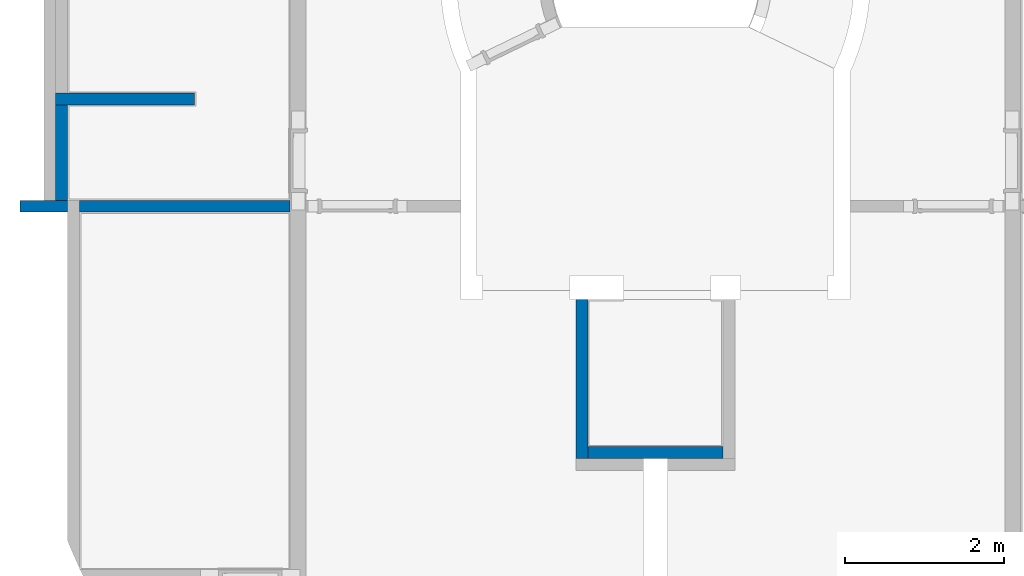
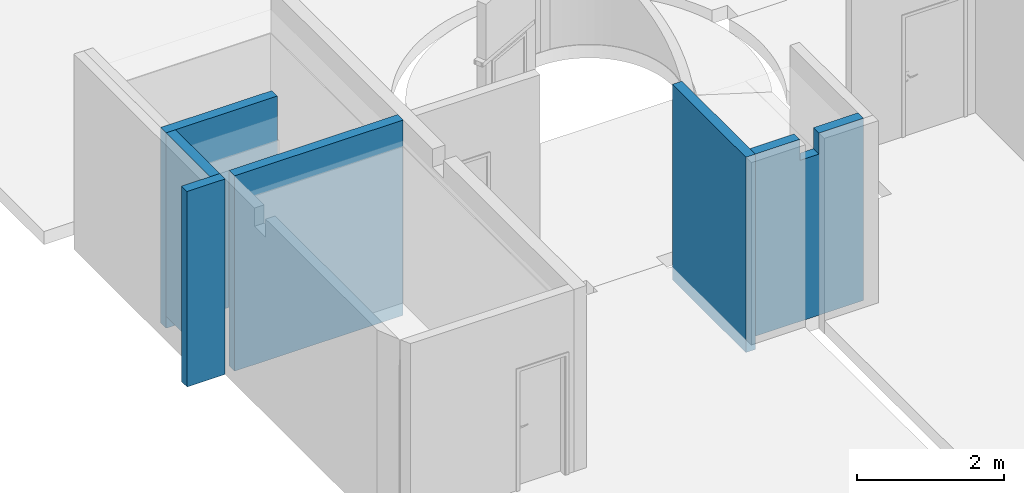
# One storey, part 11 of 21: 6 walls.
"""IFC4 building model written with IfcOpenShell, lengths in millimetres."""

from ifc_helpers import new_model, entity, si_unit, converted_unit, derived_unit, direction, frame, origin_with_axes, place, context, subcontext, project, spatial, polygons, material, constituent, constituent_set, type_object, element, save


model = new_model("IFC4")

# Units and contexts
model_context = context("Model", 3, precision=0.01, world=origin_with_axes(), true_north=direction((0.0, 1.0)))
body_context = subcontext(model_context, "Body", "Model", "MODEL_VIEW")
ifc_project = project(units=[si_unit("LENGTHUNIT", "METRE", prefix="MILLI"), si_unit("AREAUNIT", "SQUARE_METRE"), si_unit("VOLUMEUNIT", "CUBIC_METRE"), converted_unit("PLANEANGLEUNIT", "DEGREE", entity("IfcPlaneAngleMeasure", 0.0174532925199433), si_unit("PLANEANGLEUNIT", "RADIAN"), dimensions=[0, 0, 0, 0, 0, 0, 0]), converted_unit("TIMEUNIT", "Year", entity("IfcTimeMeasure", 31557600.0), si_unit("TIMEUNIT", "SECOND"), dimensions=[0, 0, 1, 0, 0, 0, 0]), si_unit("MASSUNIT", "GRAM", prefix="KILO"), si_unit("THERMODYNAMICTEMPERATUREUNIT", "DEGREE_CELSIUS"), si_unit("LUMINOUSINTENSITYUNIT", "LUMEN"), si_unit("ENERGYUNIT", "JOULE", prefix="MEGA"), derived_unit("THERMALCONDUCTANCEUNIT", [(si_unit("POWERUNIT", "WATT"), 1), (si_unit("LENGTHUNIT", "METRE"), -1), (si_unit("THERMODYNAMICTEMPERATUREUNIT", "KELVIN"), -1)]), derived_unit("SPECIFICHEATCAPACITYUNIT", [(si_unit("ENERGYUNIT", "JOULE"), 1), (si_unit("MASSUNIT", "GRAM", prefix="KILO"), -1), (si_unit("THERMODYNAMICTEMPERATUREUNIT", "KELVIN"), -1)]), derived_unit("MASSDENSITYUNIT", [(si_unit("MASSUNIT", "GRAM", prefix="KILO"), 1), (si_unit("VOLUMEUNIT", "CUBIC_METRE"), -1)])], contexts=[model_context])

# Site, building, storey
site_placement = place(None, origin_with_axes())
site = spatial("IfcSite", under=ifc_project, at=site_placement, Name="Exteriér", CompositionType="ELEMENT")
building_placement = place(site_placement, origin_with_axes())
building = spatial("IfcBuilding", under=site, at=building_placement, Name="Univerzitní lezecké centrum", CompositionType="ELEMENT")
storey_placement = place(building_placement, frame((0.0, 0.0, -3350.0), z_axis=(0.0, 0.0, 1.0), x_axis=(1.0, 0.0, 0.0)))
storey = spatial("IfcBuildingStorey", under=building, at=storey_placement, Name="1.PP", CompositionType="ELEMENT", Elevation=-3350.0)

# Walls
ifc_material_1 = material(Name="Keramické tvárnice nenosné tl. 150 mm")
ifc_constituent_1 = constituent(ifc_material_1, Name="Keramické tvárnice nenosné tl. 150 mm")
ifc_constituent_set_1 = constituent_set(constituents=[ifc_constituent_1], Name="!Vnitřní keramická stěna 150 mm - nenosná**")
wall_type_1 = type_object("IfcWallType", Name="!Vnitřní keramická stěna 150 mm - nenosná** 150", PredefinedType="NOTDEFINED")
wall_1_placement = place(storey_placement, frame((-5100.14835114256, 2300.255037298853, -220.0000000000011), z_axis=(0.0, 0.0, 1.0), x_axis=(0.9999999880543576, -0.0001545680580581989, 0.0)))
element("IfcWall", 1, at=wall_1_placement, inside=storey, type_object=wall_type_1, material=ifc_constituent_set_1, Name="St07**", PredefinedType="NOTDEFINED", context=body_context, shape_type="Tessellation", body=[
    polygons([(0.0, 0.0, 0.0), (0.0, 0.0, 120.0000000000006), (0.0, 0.0, 3250.0), (1750.0, 0.0, 3250.0), (1750.0, 0.0, 0.0), (0.0, -150.0000000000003, 0.0), (0.0, -150.0000000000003, 120.0000000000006), (0.02318520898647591, -149.9999999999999, 120.0000000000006), (0.02318520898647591, -149.9999999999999, 3250.0), (1750.000000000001, -150.0000000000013, 3250.0), (1750.000000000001, -150.0000000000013, 0.0)], [[[1, 2, 3, 4, 5]], [[6, 7, 2, 1]], [[8, 9, 3, 2]], [[4, 3, 9, 10]], [[10, 11, 5, 4]], [[11, 6, 1, 5]], [[9, 8, 7, 6, 11, 10]], [[8, 2, 7]]], closed=True),
])
ifc_constituent_2 = constituent(ifc_material_1, Name="Keramické tvárnice nenosné tl. 150 mm")
ifc_constituent_set_2 = constituent_set(constituents=[ifc_constituent_2], Name="!Vnitřní keramická stěna 150 mm - nenosná**")
wall_2_placement = place(storey_placement, frame((-4950.148351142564, 950.0000000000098, -220.0000000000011), z_axis=(0.0, 0.0, 1.0), x_axis=(1.0, 0.0, 0.0)))
element("IfcWall", 2, at=wall_2_placement, inside=storey, type_object=wall_type_1, material=ifc_constituent_set_2, Name="St07**", PredefinedType="NOTDEFINED", context=body_context, shape_type="Tessellation", body=[
    polygons([(2799.739482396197, 0.0, 0.0), (2799.739482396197, -149.9999999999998, 0.0), (150.0000000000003, -150.0, 0.0), (150.0000000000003, 0.0, 0.0), (2799.739482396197, 0.0, 3250.0), (2799.739482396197, -149.9999999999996, 3250.0), (150.0000000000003, -149.9999999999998, 3250.0), (150.0000000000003, 0.0, 3250.0)], [[[1, 2, 3, 4]], [[2, 1, 5, 6]], [[2, 6, 7, 3]], [[8, 4, 3, 7]], [[5, 1, 4, 8]], [[6, 5, 8, 7]]], closed=True),
])
ifc_material_2 = material(Name="Keramická dlažba 20x40 - obklad")
ifc_constituent_3 = constituent(ifc_material_2, Name="Keramická dlažba 20x40 - obklad")
ifc_material_3 = material(Name="Lepicí tmel na dlažbu a obklady")
ifc_constituent_4 = constituent(ifc_material_3, Name="Lepicí tmel na dlažbu a obklady")
ifc_material_4 = material(Name="Sádrokarton - voděodolný")
ifc_constituent_5 = constituent(ifc_material_4, Name="Sádrokarton - voděodolný 1")
ifc_constituent_6 = constituent(ifc_material_4, Name="Sádrokarton - voděodolný 2")
ifc_material_5 = material(Name="SDK nosný rám")
ifc_constituent_7 = constituent(ifc_material_5, Name="SDK nosný rám")
ifc_constituent_set_3 = constituent_set(constituents=[ifc_constituent_3, ifc_constituent_4, ifc_constituent_5, ifc_constituent_6, ifc_constituent_7], Name="SDK - instalační předstěna")
wall_type_2 = type_object("IfcWallType", Name="SDK - instalační předstěna 150", PredefinedType="NOTDEFINED")
wall_3_placement = place(storey_placement, frame((-5100.14835114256, 2300.255037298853, -100.000000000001), z_axis=(0.0, 0.0, 1.0), x_axis=(0.0, -1.0, 0.0)))
element("IfcWall", 3, at=wall_3_placement, inside=storey, type_object=wall_type_2, material=ifc_constituent_set_3, Name="St08", PredefinedType="NOTDEFINED", context=body_context, shape_type="Tessellation", body=[
    polygons([(1350.255037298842, 149.9999999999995, 100.0000000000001), (150.0231870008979, 150.0000000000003, 100.0000000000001), (150.0231870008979, 150.0000000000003, 3130.0), (1350.255037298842, 150.0000000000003, 3130.0), (150.0221050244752, 142.9999999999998, 100.0000000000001), (1350.255037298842, 142.9999999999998, 100.0000000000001), (150.0221050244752, 142.9999999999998, 3130.0), (1350.255037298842, 142.9999999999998, 3130.0)], [[[1, 2, 3, 4]], [[5, 2, 1, 6]], [[2, 5, 7, 3]], [[4, 3, 7, 8]], [[6, 1, 4, 8]], [[5, 6, 8, 7]]], closed=True),
    polygons([(1350.255037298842, 142.9999999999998, 90.0000000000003), (150.0221050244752, 142.9999999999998, 90.0000000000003), (150.0221050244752, 142.9999999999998, 3130.0), (1350.255037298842, 142.9999999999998, 3130.0), (150.0216413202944, 139.9999999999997, 90.0000000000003), (1350.255037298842, 139.9999999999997, 90.0000000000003), (150.0216413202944, 140.0000000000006, 3130.0), (1350.255037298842, 139.9999999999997, 3130.0)], [[[1, 2, 3, 4]], [[5, 2, 1, 6]], [[2, 5, 7, 3]], [[4, 3, 7, 8]], [[6, 1, 4, 8]], [[5, 6, 8, 7]]], closed=True),
    polygons([(1350.255037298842, 139.9999999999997, 87.00000000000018), (150.0216413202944, 139.9999999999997, 87.00000000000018), (150.0216413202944, 140.0000000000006, 3130.0), (1350.255037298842, 139.9999999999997, 3130.0), (150.01963193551, 126.9999999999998, 87.00000000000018), (1350.255037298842, 126.9999999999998, 87.00000000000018), (150.01963193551, 126.9999999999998, 3130.0), (1350.255037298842, 126.9999999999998, 3130.0)], [[[1, 2, 3, 4]], [[5, 2, 1, 6]], [[2, 5, 7, 3]], [[4, 3, 7, 8]], [[6, 1, 4, 8]], [[5, 6, 8, 7]]], closed=True),
    polygons([(1350.255037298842, 126.9999999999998, 87.00000000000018), (150.01963193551, 126.9999999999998, 87.00000000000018), (150.01963193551, 126.9999999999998, 3130.0), (1350.255037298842, 126.9999999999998, 3130.0), (150.0177771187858, 115.0000000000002, 87.00000000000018), (1350.255037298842, 115.0000000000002, 87.00000000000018), (150.0177771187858, 115.0000000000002, 3130.0), (1350.255037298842, 115.0000000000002, 3130.0)], [[[1, 2, 3, 4]], [[5, 2, 1, 6]], [[2, 5, 7, 3]], [[4, 3, 7, 8]], [[6, 1, 4, 8]], [[5, 6, 8, 7]]], closed=True),
    polygons([(1350.255037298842, 115.0000000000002, 80.99999999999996), (150.0177771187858, 115.0000000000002, 80.99999999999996), (150.0177771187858, 115.0000000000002, 3130.0), (1350.255037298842, 115.0000000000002, 3130.0), (150.0000017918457, 0.0, 80.99999999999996), (1350.255037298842, 0.0, 80.99999999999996), (150.0000017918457, 0.0, 3130.0), (1350.255037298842, 0.0, 3130.0)], [[[1, 2, 3, 4]], [[5, 2, 1, 6]], [[2, 5, 7, 3]], [[4, 3, 7, 8]], [[6, 1, 4, 8]], [[5, 6, 8, 7]]], closed=True),
])
wall_type_3 = type_object("IfcWallType", Name="Keramické tvárnice nenosné tl. 150 mm 150", PredefinedType="NOTDEFINED")
wall_4_placement = place(storey_placement, frame((-5550.148351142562, 950.0000000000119, -220.0000000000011), z_axis=(0.0, 0.0, 1.0), x_axis=(1.0, 0.0, 0.0)))
element("IfcWall", 4, at=wall_4_placement, inside=storey, type_object=wall_type_3, material=ifc_material_1, PredefinedType="NOTDEFINED", context=body_context, shape_type="Tessellation", body=[
    polygons([(0.0, -149.9999999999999, 3250.0), (599.9999999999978, -149.9999999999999, 3250.0), (599.9999999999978, 0.0, 3250.0), (0.0, 0.0, 3250.0), (0.0, -149.9999999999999, 0.0), (599.9999999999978, -150.0000000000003, 0.0), (599.9999999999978, 0.0, 0.0), (0.0, 0.0, 0.0)], [[[1, 2, 3, 4]], [[5, 6, 2, 1]], [[6, 7, 3, 2]], [[4, 3, 7, 8]], [[4, 8, 5, 1]], [[8, 7, 6, 5]]], closed=True),
])
ifc_constituent_8 = constituent(ifc_material_5, Name="SDK nosný rám")
ifc_constituent_9 = constituent(ifc_material_4, Name="Sádrokarton - voděodolný 1")
ifc_constituent_10 = constituent(ifc_material_4, Name="Sádrokarton - voděodolný 2")
ifc_constituent_11 = constituent(ifc_material_3, Name="Lepicí tmel na dlažbu a obklady")
ifc_constituent_12 = constituent(ifc_material_2, Name="Keramická dlažba 20x40 - obklad")
ifc_constituent_set_4 = constituent_set(constituents=[ifc_constituent_8, ifc_constituent_9, ifc_constituent_10, ifc_constituent_11, ifc_constituent_12], Name="SDK - instalační předstěna*")
wall_type_4 = type_object("IfcWallType", Name="SDK - instalační předstěna* 150", PredefinedType="NOTDEFINED")
wall_5_placement = place(storey_placement, frame((3299.851648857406, -2299.739482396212, -120.000000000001), z_axis=(0.0, 0.0, 1.0), x_axis=(-1.0, 0.0, 0.0)))
element("IfcWall", 5, at=wall_5_placement, inside=storey, type_object=wall_type_4, material=ifc_constituent_set_4, Name="St08*", PredefinedType="NOTDEFINED", context=body_context, shape_type="Tessellation", body=[
    polygons([(999.9999999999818, -115.0000000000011, 2800.000000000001), (699.9999999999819, -115.0000000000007, 2800.000000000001), (699.9999999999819, -115.0000000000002, 3150.000000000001), (0.0, -114.9999999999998, 3150.000000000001), (0.0, -115.0000000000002, 120.0000000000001), (1699.999999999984, -115.000000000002, 120.0000000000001), (1699.999999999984, -115.0000000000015, 3150.000000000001), (999.9999999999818, -115.0000000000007, 3150.000000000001), (999.9999999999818, 0.0, 2800.000000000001), (699.9999999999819, 0.0, 2800.000000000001), (699.9999999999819, 0.0, 3150.000000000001), (0.0, 0.0, 3150.000000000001), (0.0, 0.0, 120.0000000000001), (1699.999999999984, 0.0, 120.0000000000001), (1699.999999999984, 0.0, 3150.000000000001), (999.9999999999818, 0.0, 3150.000000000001)], [[[1, 2, 3, 4, 5, 6, 7, 8]], [[2, 1, 9, 10]], [[11, 3, 2, 10]], [[3, 11, 12, 4]], [[12, 13, 5, 4]], [[14, 6, 5, 13]], [[7, 6, 14, 15]], [[16, 8, 7, 15]], [[1, 8, 16, 9]], [[9, 16, 15, 14, 13, 12, 11, 10]]], closed=True),
    polygons([(999.9999999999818, -127.0000000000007, 2800.000000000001), (699.9999999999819, -127.0000000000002, 2800.000000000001), (699.9999999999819, -127.0000000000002, 3150.000000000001), (0.0, -126.9999999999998, 3150.000000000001), (0.0, -126.9999999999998, 120.0000000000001), (1699.999999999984, -127.000000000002, 120.0000000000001), (1699.999999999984, -127.0000000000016, 3150.000000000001), (999.9999999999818, -127.0000000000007, 3150.000000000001), (999.9999999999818, -115.0000000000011, 2800.000000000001), (699.9999999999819, -115.0000000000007, 2800.000000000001), (699.9999999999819, -115.0000000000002, 3150.000000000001), (0.0, -114.9999999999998, 3150.000000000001), (0.0, -115.0000000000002, 120.0000000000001), (1699.999999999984, -115.000000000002, 120.0000000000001), (1699.999999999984, -115.0000000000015, 3150.000000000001), (999.9999999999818, -115.0000000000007, 3150.000000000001)], [[[1, 2, 3, 4, 5, 6, 7, 8]], [[2, 1, 9, 10]], [[11, 3, 2, 10]], [[3, 11, 12, 4]], [[12, 13, 5, 4]], [[14, 6, 5, 13]], [[7, 6, 14, 15]], [[16, 8, 7, 15]], [[1, 8, 16, 9]], [[9, 16, 15, 14, 13, 12, 11, 10]]], closed=True),
    polygons([(999.9999999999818, -140.0000000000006, 2800.000000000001), (699.9999999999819, -140.0000000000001, 2800.000000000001), (699.9999999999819, -140.0000000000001, 3150.000000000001), (0.0, -139.9999999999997, 3150.000000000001), (0.0, -140.0000000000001, 120.0000000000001), (1699.999999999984, -140.0000000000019, 120.0000000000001), (1699.999999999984, -140.0000000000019, 3150.000000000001), (999.9999999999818, -140.0000000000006, 3150.000000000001), (999.9999999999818, -127.0000000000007, 2800.000000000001), (699.9999999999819, -127.0000000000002, 2800.000000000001), (699.9999999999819, -127.0000000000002, 3150.000000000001), (0.0, -126.9999999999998, 3150.000000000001), (0.0, -126.9999999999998, 120.0000000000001), (1699.999999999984, -127.000000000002, 120.0000000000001), (1699.999999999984, -127.0000000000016, 3150.000000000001), (999.9999999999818, -127.0000000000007, 3150.000000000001)], [[[1, 2, 3, 4, 5, 6, 7, 8]], [[2, 1, 9, 10]], [[11, 3, 2, 10]], [[3, 11, 12, 4]], [[12, 13, 5, 4]], [[14, 6, 5, 13]], [[7, 6, 14, 15]], [[16, 8, 7, 15]], [[1, 8, 16, 9]], [[9, 16, 15, 14, 13, 12, 11, 10]]], closed=True),
    polygons([(999.9999999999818, -143.0000000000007, 2800.000000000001), (699.9999999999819, -143.0000000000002, 2800.000000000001), (699.9999999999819, -143.0000000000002, 3150.000000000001), (0.0, -142.9999999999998, 3150.000000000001), (0.0, -142.9999999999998, 120.0000000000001), (1699.999999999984, -143.000000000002, 120.0000000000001), (1699.999999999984, -143.0000000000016, 3150.000000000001), (999.9999999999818, -143.0000000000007, 3150.000000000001), (999.9999999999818, -140.0000000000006, 2800.000000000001), (699.9999999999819, -140.0000000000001, 2800.000000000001), (699.9999999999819, -140.0000000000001, 3150.000000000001), (0.0, -139.9999999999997, 3150.000000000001), (0.0, -140.0000000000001, 120.0000000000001), (1699.999999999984, -140.0000000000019, 120.0000000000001), (1699.999999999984, -140.0000000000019, 3150.000000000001), (999.9999999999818, -140.0000000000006, 3150.000000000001)], [[[1, 2, 3, 4, 5, 6, 7, 8]], [[2, 1, 9, 10]], [[11, 3, 2, 10]], [[3, 11, 12, 4]], [[12, 13, 5, 4]], [[14, 6, 5, 13]], [[7, 6, 14, 15]], [[16, 8, 7, 15]], [[1, 8, 16, 9]], [[9, 16, 15, 14, 13, 12, 11, 10]]], closed=True),
    polygons([(999.9999999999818, -150.0000000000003, 2800.000000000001), (699.9999999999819, -149.9999999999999, 2800.000000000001), (699.9999999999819, -150.0000000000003, 3150.000000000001), (0.0, -149.9999999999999, 3150.000000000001), (0.0, -149.9999999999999, 120.0000000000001), (1699.999999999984, -150.0000000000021, 120.0000000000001), (1699.999999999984, -150.0000000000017, 3150.000000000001), (999.9999999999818, -150.0000000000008, 3150.000000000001), (999.9999999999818, -143.0000000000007, 2800.000000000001), (699.9999999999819, -143.0000000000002, 2800.000000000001), (699.9999999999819, -143.0000000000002, 3150.000000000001), (0.0, -142.9999999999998, 3150.000000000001), (0.0, -142.9999999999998, 120.0000000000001), (1699.999999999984, -143.000000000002, 120.0000000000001), (1699.999999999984, -143.0000000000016, 3150.000000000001), (999.9999999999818, -143.0000000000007, 3150.000000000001)], [[[1, 2, 3, 4, 5, 6, 7, 8]], [[2, 1, 9, 10]], [[11, 3, 2, 10]], [[3, 11, 12, 4]], [[12, 13, 5, 4]], [[14, 6, 5, 13]], [[7, 6, 14, 15]], [[16, 8, 7, 15]], [[1, 8, 16, 9]], [[9, 16, 15, 14, 13, 12, 11, 10]]], closed=True),
])
ifc_constituent_13 = constituent(ifc_material_1, Name="Keramické tvárnice nenosné tl. 150 mm")
ifc_constituent_set_5 = constituent_set(constituents=[ifc_constituent_13], Name="!Vnitřní keramická stěna 150 mm - nenosná*")
wall_type_5 = type_object("IfcWallType", Name="!Vnitřní keramická stěna 150 mm - nenosná* 150", PredefinedType="NOTDEFINED")
wall_6_placement = place(storey_placement, frame((1449.851648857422, -2449.739482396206, -220.0000000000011), z_axis=(0.0, 0.0, 1.0), x_axis=(0.0, 1.0, 0.0)))
element("IfcWall", 6, at=wall_6_placement, inside=storey, type_object=wall_type_5, material=ifc_constituent_set_5, Name="St07*", PredefinedType="NOTDEFINED", context=body_context, shape_type="Tessellation", body=[
    polygons([(2149.739482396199, -149.9999999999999, 0.0), (149.9999999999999, -149.9999999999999, 0.0), (149.9999999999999, 0.0, 0.0), (2149.739482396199, 0.0, 0.0), (2149.739482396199, -149.9999999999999, 3250.000000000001), (149.9999999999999, -149.9999999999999, 3250.000000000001), (149.9999999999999, 0.0, 3250.000000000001), (2149.739482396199, 0.0, 3250.000000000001)], [[[1, 2, 3, 4]], [[5, 6, 2, 1]], [[3, 2, 6, 7]], [[4, 3, 7, 8]], [[4, 8, 5, 1]], [[8, 7, 6, 5]]], closed=True),
])

save(model, "model.ifc")
